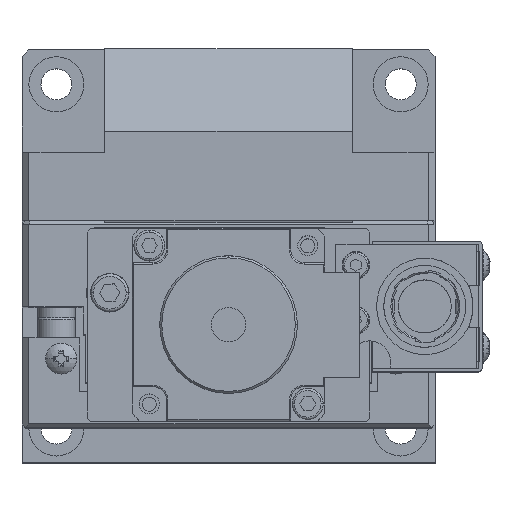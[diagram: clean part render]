
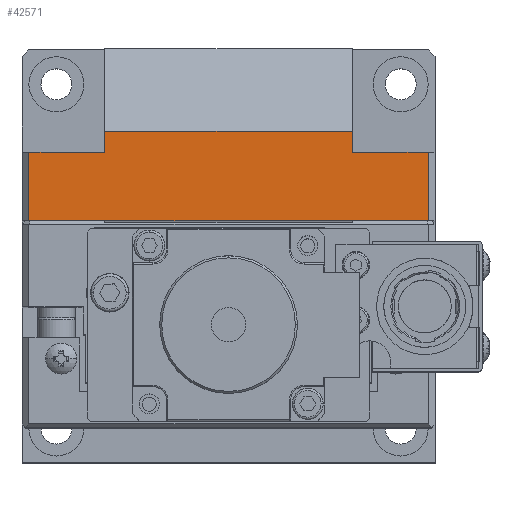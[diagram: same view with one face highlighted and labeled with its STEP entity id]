
A CAD part, top view. The second image highlights one B-rep face of the part: STEP entity #42571.
In plain terms, the highlighted planar face has unit normal (0, 0, 1).
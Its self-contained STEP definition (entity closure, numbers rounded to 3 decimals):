
#55 = CARTESIAN_POINT ( 'NONE',  ( -18., 18., 90. ) ) ;
#1192 = LINE ( 'NONE', #56420, #26983 ) ;
#1538 = LINE ( 'NONE', #23280, #40682 ) ;
#3487 = VERTEX_POINT ( 'NONE', #32804 ) ;
#3577 = EDGE_LOOP ( 'NONE', ( #12982, #64836, #27528, #14080, #36528, #70137, #33930, #22379 ) ) ;
#5028 = VECTOR ( 'NONE', #65577, 1000. ) ;
#5766 = DIRECTION ( 'NONE',  ( 0., -1., 0. ) ) ;
#5884 = EDGE_CURVE ( 'NONE', #7663, #3487, #23305, .T. ) ;
#6577 = DIRECTION ( 'NONE',  ( 0., 0., 1. ) ) ;
#7663 = VERTEX_POINT ( 'NONE', #65267 ) ;
#7943 = CARTESIAN_POINT ( 'NONE',  ( -18., 18., 90. ) ) ;
#10344 = VERTEX_POINT ( 'NONE', #33252 ) ;
#11713 = CARTESIAN_POINT ( 'NONE',  ( 29., 15., 90. ) ) ;
#12690 = CARTESIAN_POINT ( 'NONE',  ( 18., 15., 90. ) ) ;
#12982 = ORIENTED_EDGE ( 'NONE', *, *, #48803, .F. ) ;
#13294 = DIRECTION ( 'NONE',  ( 0., 1., 0. ) ) ;
#13687 = DIRECTION ( 'NONE',  ( -1., 0., 0. ) ) ;
#14080 = ORIENTED_EDGE ( 'NONE', *, *, #5884, .T. ) ;
#14584 = VECTOR ( 'NONE', #47179, 1000. ) ;
#17614 = LINE ( 'NONE', #50750, #39832 ) ;
#17962 = DIRECTION ( 'NONE',  ( -1., 0., 0. ) ) ;
#19263 = EDGE_CURVE ( 'NONE', #62601, #59549, #17614, .T. ) ;
#22379 = ORIENTED_EDGE ( 'NONE', *, *, #19263, .T. ) ;
#23280 = CARTESIAN_POINT ( 'NONE',  ( 125.525, 5., 90. ) ) ;
#23305 = LINE ( 'NONE', #29007, #43593 ) ;
#26590 = DIRECTION ( 'NONE',  ( 0., -1., 0. ) ) ;
#26983 = VECTOR ( 'NONE', #13294, 1000. ) ;
#27528 = ORIENTED_EDGE ( 'NONE', *, *, #63051, .T. ) ;
#29007 = CARTESIAN_POINT ( 'NONE',  ( 125.525, 15., 90. ) ) ;
#31574 = VECTOR ( 'NONE', #26590, 1000. ) ;
#32804 = CARTESIAN_POINT ( 'NONE',  ( -29., 15., 90. ) ) ;
#33252 = CARTESIAN_POINT ( 'NONE',  ( 29., 5., 90. ) ) ;
#33636 = PLANE ( 'NONE',  #39391 ) ;
#33930 = ORIENTED_EDGE ( 'NONE', *, *, #48505, .T. ) ;
#36276 = EDGE_CURVE ( 'NONE', #44755, #65832, #49265, .T. ) ;
#36528 = ORIENTED_EDGE ( 'NONE', *, *, #63993, .T. ) ;
#37122 = LINE ( 'NONE', #54921, #62104 ) ;
#38987 = FACE_OUTER_BOUND ( 'NONE', #3577, .T. ) ;
#39391 = AXIS2_PLACEMENT_3D ( 'NONE', #56085, #6577, #67791 ) ;
#39832 = VECTOR ( 'NONE', #17962, 1000. ) ;
#40682 = VECTOR ( 'NONE', #50029, 1000. ) ;
#40903 = CARTESIAN_POINT ( 'NONE',  ( -29., 5., 90. ) ) ;
#41471 = CARTESIAN_POINT ( 'NONE',  ( -18., 115.475, 90. ) ) ;
#42571 = ADVANCED_FACE ( 'NONE', ( #38987 ), #33636, .T. ) ;
#43593 = VECTOR ( 'NONE', #13687, 1000. ) ;
#44755 = VERTEX_POINT ( 'NONE', #52946 ) ;
#46826 = LINE ( 'NONE', #41471, #14584 ) ;
#47179 = DIRECTION ( 'NONE',  ( 0., -1., 0. ) ) ;
#48505 = EDGE_CURVE ( 'NONE', #10344, #62601, #1192, .T. ) ;
#48526 = EDGE_CURVE ( 'NONE', #10344, #67413, #1538, .T. ) ;
#48803 = EDGE_CURVE ( 'NONE', #44755, #59549, #37122, .T. ) ;
#49265 = LINE ( 'NONE', #55, #5028 ) ;
#50029 = DIRECTION ( 'NONE',  ( -1., 0., 0. ) ) ;
#50750 = CARTESIAN_POINT ( 'NONE',  ( 125.525, 15., 90. ) ) ;
#52946 = CARTESIAN_POINT ( 'NONE',  ( 18., 18., 90. ) ) ;
#52959 = CARTESIAN_POINT ( 'NONE',  ( -29., 5., 90. ) ) ;
#54921 = CARTESIAN_POINT ( 'NONE',  ( 18., 115.475, 90. ) ) ;
#56085 = CARTESIAN_POINT ( 'NONE',  ( 125.525, 5., 90. ) ) ;
#56420 = CARTESIAN_POINT ( 'NONE',  ( 29., 15., 90. ) ) ;
#59549 = VERTEX_POINT ( 'NONE', #12690 ) ;
#62104 = VECTOR ( 'NONE', #5766, 1000. ) ;
#62601 = VERTEX_POINT ( 'NONE', #11713 ) ;
#63051 = EDGE_CURVE ( 'NONE', #65832, #7663, #46826, .T. ) ;
#63993 = EDGE_CURVE ( 'NONE', #3487, #67413, #64318, .T. ) ;
#64318 = LINE ( 'NONE', #52959, #31574 ) ;
#64836 = ORIENTED_EDGE ( 'NONE', *, *, #36276, .T. ) ;
#65267 = CARTESIAN_POINT ( 'NONE',  ( -18., 15., 90. ) ) ;
#65577 = DIRECTION ( 'NONE',  ( -1., 0., 0. ) ) ;
#65832 = VERTEX_POINT ( 'NONE', #7943 ) ;
#67413 = VERTEX_POINT ( 'NONE', #40903 ) ;
#67791 = DIRECTION ( 'NONE',  ( 0., -1., 0. ) ) ;
#70137 = ORIENTED_EDGE ( 'NONE', *, *, #48526, .F. ) ;
